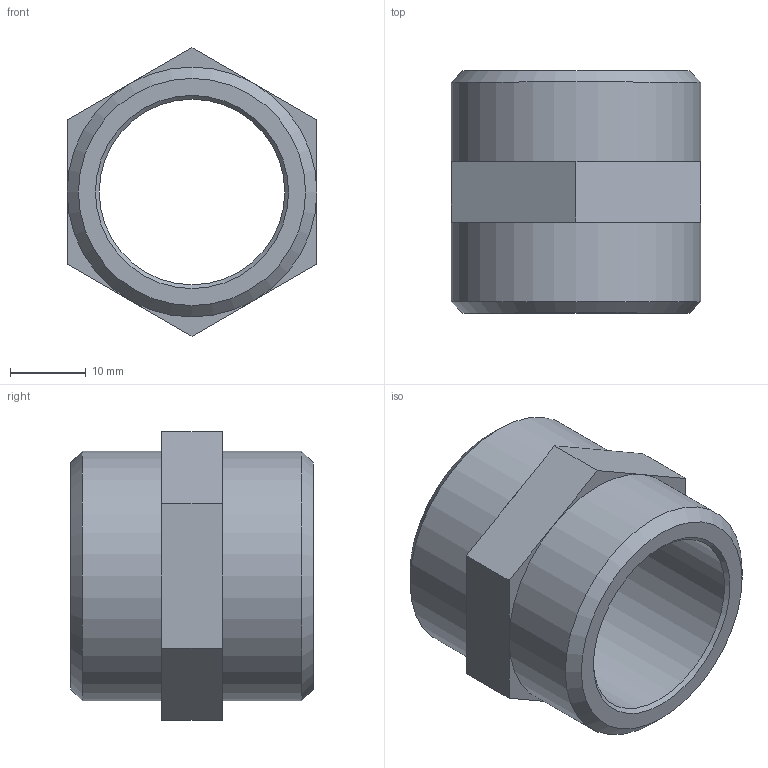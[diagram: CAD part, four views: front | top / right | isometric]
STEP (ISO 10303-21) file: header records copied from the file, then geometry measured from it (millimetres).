
FILE_DESCRIPTION(('STEP AP203'), '1');
FILE_NAME('ÂÐ.753136.004 - VTr.582.N.0006 Íèïïåëü G1', '2024-07-05T12:02:20', ('Boss'), (''), 'C3D Converter', 'C3D Toolkit', '');
FILE_SCHEMA(('CONFIG_CONTROL_DESIGN'));
Length unit declared in the file: millimetre
Products named in the file (1): ВР.753136.004
Bounding box: 33 x 32 x 38.11 mm (x, y, z)
Volume: 12740.4 mm3; surface area: 6576.5 mm2
Topology: 1 solids, 1 shells, 27 faces, 57 edges, 32 vertices
Faces by surface type: plane 20, cone 4, cylinder 3
Full cylindrical faces by diameter (mm): 24.5 x1, 33 x2
Entity records: 707 total; most frequent: DIRECTION 126, CARTESIAN_POINT 110, ORIENTED_EDGE 100, EDGE_CURVE 50, AXIS2_PLACEMENT_3D 48, EDGE_LOOP 36, VERTEX_POINT 32, LINE 30
